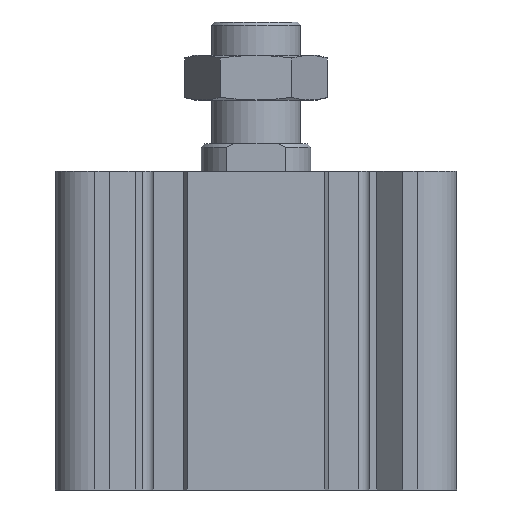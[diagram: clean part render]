
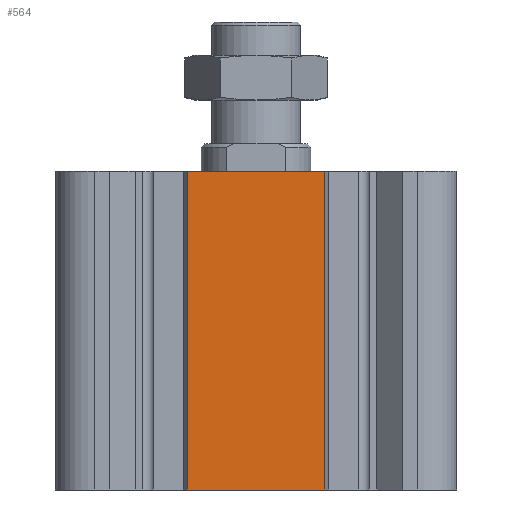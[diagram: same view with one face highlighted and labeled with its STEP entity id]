
A CAD part, left-side view. The second image highlights one B-rep face of the part: STEP entity #564.
In plain terms, the highlighted planar face has unit normal (-1, 0, 0).
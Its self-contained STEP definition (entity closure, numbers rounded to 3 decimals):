
#564 = ADVANCED_FACE( '', ( #1187 ), #1188, .T. );
#1187 = FACE_OUTER_BOUND( '', #1803, .T. );
#1188 = PLANE( '', #1804 );
#1803 = EDGE_LOOP( '', ( #3162, #3163, #3164, #3165 ) );
#1804 = AXIS2_PLACEMENT_3D( '', #3166, #3167, #3168 );
#3162 = ORIENTED_EDGE( '', *, *, #3607, .F. );
#3163 = ORIENTED_EDGE( '', *, *, #3760, .F. );
#3164 = ORIENTED_EDGE( '', *, *, #3585, .T. );
#3165 = ORIENTED_EDGE( '', *, *, #3375, .T. );
#3166 = CARTESIAN_POINT( '', ( -55.5, 19.998, -93. ) );
#3167 = DIRECTION( '', ( -1., 0., 0. ) );
#3168 = DIRECTION( '', ( 0., 0., 1. ) );
#3375 = EDGE_CURVE( '', #3991, #3988, #3992, .T. );
#3585 = EDGE_CURVE( '', #4325, #3991, #4326, .T. );
#3607 = EDGE_CURVE( '', #4355, #3988, #4357, .T. );
#3760 = EDGE_CURVE( '', #4325, #4355, #4549, .T. );
#3988 = VERTEX_POINT( '', #4884 );
#3991 = VERTEX_POINT( '', #4888 );
#3992 = LINE( '', #4889, #4890 );
#4325 = VERTEX_POINT( '', #5347 );
#4326 = LINE( '', #5348, #5349 );
#4355 = VERTEX_POINT( '', #5387 );
#4357 = LINE( '', #5390, #5391 );
#4549 = LINE( '', #5676, #5677 );
#4884 = CARTESIAN_POINT( '', ( -55.5, -20.002, 0. ) );
#4888 = CARTESIAN_POINT( '', ( -55.5, -20.002, -93. ) );
#4889 = CARTESIAN_POINT( '', ( -55.5, -20.002, -93. ) );
#4890 = VECTOR( '', #5836, 1000. );
#5347 = CARTESIAN_POINT( '', ( -55.5, 19.998, -93. ) );
#5348 = CARTESIAN_POINT( '', ( -55.5, 19.998, -93. ) );
#5349 = VECTOR( '', #6120, 1000. );
#5387 = CARTESIAN_POINT( '', ( -55.5, 19.998, 0. ) );
#5390 = CARTESIAN_POINT( '', ( -55.5, 19.998, 0. ) );
#5391 = VECTOR( '', #6146, 1000. );
#5676 = CARTESIAN_POINT( '', ( -55.5, 19.998, -93. ) );
#5677 = VECTOR( '', #6270, 1000. );
#5836 = DIRECTION( '', ( 0., 0., 1. ) );
#6120 = DIRECTION( '', ( 0., -1., 0. ) );
#6146 = DIRECTION( '', ( 0., -1., 0. ) );
#6270 = DIRECTION( '', ( 0., 0., 1. ) );
